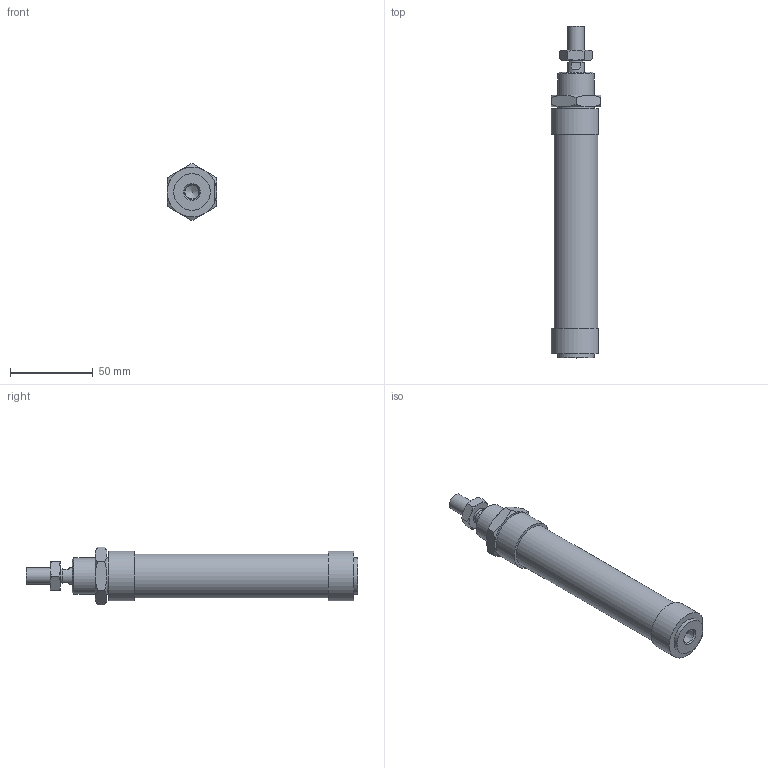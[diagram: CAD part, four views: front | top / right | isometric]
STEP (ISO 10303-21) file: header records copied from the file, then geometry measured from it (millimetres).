
FILE_DESCRIPTION((''),'2;1');
FILE_NAME('I:\Area Tecnica\Disegni\VARIE-3D\Componenti\1280\1281_##_####_#\1281_25_0080.iam.stp','2009-06-04T09:40:19',(''),(''),'Autodesk Inventor 2010','Autodesk Inventor 2010','');
FILE_SCHEMA(('AUTOMOTIVE_DESIGN { 1 0 10303 214 1 1 1 1 }'));
Length unit declared in the file: millimetre
Products named in the file (5): 1281_25_0080; C1281_25_80; S1280_25_80; 1200_25_05; 1200_25_06
Assembly tree (4 placements, depth 2):
  1281_25_0080
    C1281_25_80
    S1280_25_80
    1200_25_05
    1200_25_06
Bounding box: 30 x 200.5 x 34.64 mm (x, y, z)
Volume: 99861 mm3; surface area: 27836.2 mm2
Topology: 4 solids, 4 shells, 86 faces, 185 edges, 112 vertices
Faces by surface type: plane 36, cone 26, bspline 15, cylinder 9
Full cylindrical faces by diameter (mm): 8.8 x1, 10 x3, 22 x2, 26.5 x1
Entity records: 2529 total; most frequent: CARTESIAN_POINT 690, DIRECTION 332, ORIENTED_EDGE 310, EDGE_CURVE 155, AXIS2_PLACEMENT_3D 148, EDGE_LOOP 120, VERTEX_POINT 103, STYLED_ITEM 90
